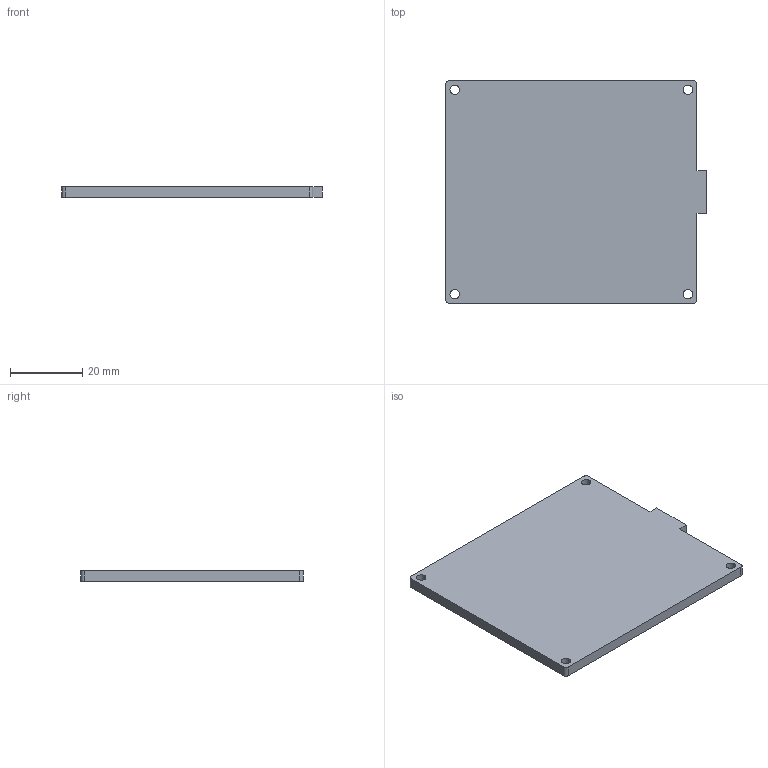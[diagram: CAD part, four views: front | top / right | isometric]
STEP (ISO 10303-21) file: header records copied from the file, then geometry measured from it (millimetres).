
FILE_DESCRIPTION(('STEP AP242 Edition 2','STEP AP242 Edition 2''CAx-IF Rec.Pracs.---Representation and Presentation of Product Manufacturing Information (PMI)---4.0---2014-10-13','STEP AP242 Edition 2''CAx-IF Rec.Pracs.---Representation and Presentation of Product Manufacturing Information (PMI)---4.0---2014-10-13''CAx-IF Rec.Pracs.---3D Tessellated Geometry---0.4---2014-09-14','STEP AP242 Edition 2''CAx-IF Rec.Pracs.---Representation and Presentation of Product Manufacturing Information (PMI)---4.0---2014-10-13''CAx-IF Rec.Pracs.---3D Tessellated Geometry---0.4---2014-09-14''2;1','STEP AP242 Edition 2''CAx-IF Rec.Pracs.---Representation and Presentation of Product Manufacturing Information (PMI)---4.0---2014-10-13''CAx-IF Rec.Pracs.---3D Tessellated Geometry---0.4---2014-09-14''2;1''CAx-IF Rec.Pracs.---User Defined Attributes---1.5---2016-08-15'),'2;1');
FILE_NAME('/vol/tmp/translate-26829232647236393/Part Studio 1 - Lid.step','2026-04-25T00:12:13',(''),(''),'ST-DEVELOPER v20','ONSHAPE BY PTC INC, 1.214',' ');
FILE_SCHEMA(('AP242_MANAGED_MODEL_BASED_3D_ENGINEERING_MIM_LF { 1 0 10303 442 3 1 4 }'));
Length unit declared in the file: metre
Products named in the file (1): Lid
Bounding box: 72.3 x 61.7 x 3 mm (x, y, z)
Volume: 12926.3 mm3; surface area: 9514.4 mm2
Topology: 1 solids, 1 shells, 18 faces, 48 edges, 32 vertices
Faces by surface type: plane 10, cylinder 8
Full cylindrical faces by diameter (mm): 2.6 x4
Entity records: 586 total; most frequent: DIRECTION 98, CARTESIAN_POINT 95, ORIENTED_EDGE 88, EDGE_CURVE 44, AXIS2_PLACEMENT_3D 35, VERTEX_POINT 32, EDGE_LOOP 30, FACE_BOUND 30
